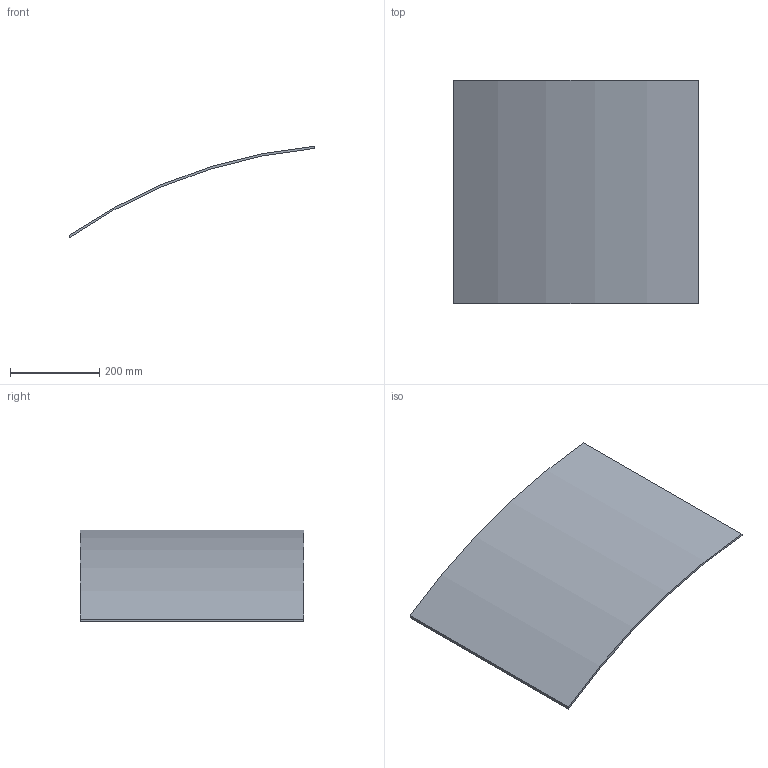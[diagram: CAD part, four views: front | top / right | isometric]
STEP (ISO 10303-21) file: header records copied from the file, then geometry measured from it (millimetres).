
FILE_DESCRIPTION( ( 'Unknown' ), '1' );
FILE_NAME( 'C:/Users/work/Documents/Solid Edge/heavy_gas_cherenkov/step/sphere_mirror_posx_negy.step', 'Unknown', ( 'Unknown' ), ( 'Unknown' ), 'PSStep 10.1', 'Unknown', ' ' );
FILE_SCHEMA( ( 'AUTOMOTIVE_DESIGN { 1 0 10303 214 1 1 1 1 }' ) );
Length unit declared in the file: millimetre
Products named in the file (1): 1
Bounding box: 550.01 x 500 x 204.99 mm (x, y, z)
Volume: 1478802 mm3; surface area: 602985.5 mm2
Topology: 1 solids, 1 shells, 6 faces, 12 edges, 8 vertices
Faces by surface type: plane 4, cylinder 2
Entity records: 224 total; most frequent: DIRECTION 30, CARTESIAN_POINT 27, ORIENTED_EDGE 24, EDGE_CURVE 12, AXIS2_PLACEMENT_3D 11, VERTEX_POINT 8, LINE 8, VECTOR 8
